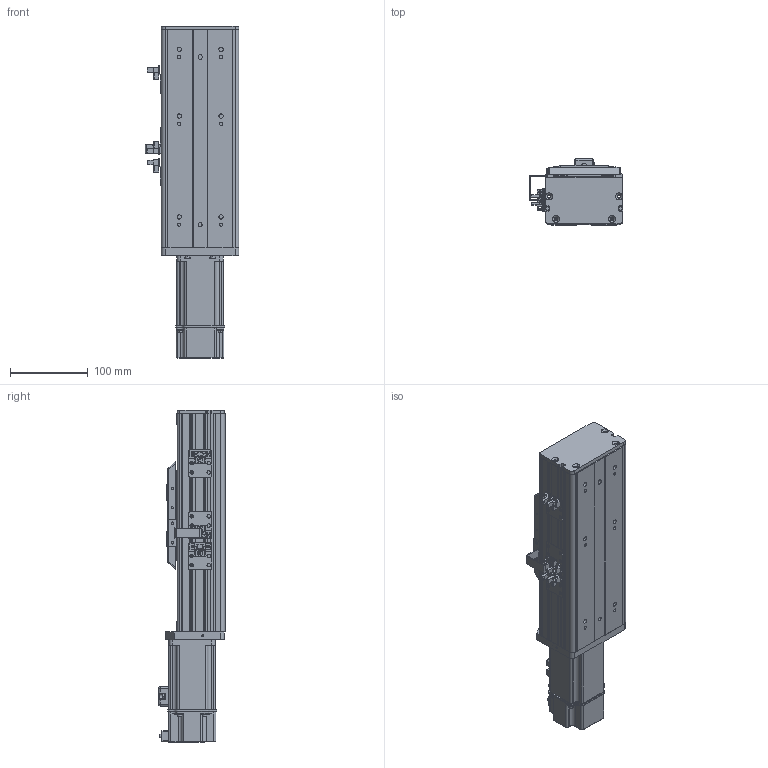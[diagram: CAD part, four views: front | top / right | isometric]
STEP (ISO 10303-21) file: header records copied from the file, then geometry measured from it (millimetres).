
FILE_DESCRIPTION (( 'STEP AP203' ), '1' );
FILE_NAME ('BOSW100-50-1610-1P-CM-M400W-O-S3（方程式2016）.step', '2020-10-10T06:28:24', ( '' ), ( '' ), 'SwSTEP 2.0', 'SolidWorks 2016', '' );
FILE_SCHEMA (( 'CONFIG_CONTROL_DESIGN' ));
Length unit declared in the file: millimetre
Products named in the file (13): 新结构AIMSW-100-1P-宽&高轨共用-滑动座上组件; BOSW&TW-100-俋离覜茼え; 放大器内置U型微型光电传感器PM-L65; BOSW&TW-100-1P-賑雄釱欶; BOSW-100-綴裔啣; BOSW-100-CM-宽轨-三菱M200W&400W马达板(新结构); S400W(SMA-L040); BOSW-100-1P-CM-50諦誧芞; BOSW-100-1P-CM-宽轨-侧板-50客户图纸; BOSW100-50-1610-1P-CM-M400W-O-S3（方程式2016）; BOSW-100-1P-CM-宽轨-钢带-50客户图纸; BOSW&TW-100-詩湍揤沭(陔賦凳); 俋境嫖覜嘐隅啣
Assembly tree (18 placements, depth 2):
  BOSW100-50-1610-1P-CM-M400W-O-S3（方程式2016）
    BOSW-100-1P-CM-50諦誧芞
    BOSW-100-綴裔啣
    新结构AIMSW-100-1P-宽&高轨共用-滑动座上组件
    S400W(SMA-L040)
    BOSW&TW-100-詩湍揤沭(陔賦凳)  x2
    BOSW&TW-100-1P-賑雄釱欶
    BOSW&TW-100-俋离覜茼え
    俋境嫖覜嘐隅啣  x3
    放大器内置U型微型光电传感器PM-L65  x3
    BOSW-100-CM-宽轨-三菱M200W&400W马达板(新结构)
    BOSW-100-1P-CM-宽轨-侧板-50客户图纸  x2
    BOSW-100-1P-CM-宽轨-钢带-50客户图纸
Bounding box: 120.9 x 85.5 x 427.8 mm (x, y, z)
Volume: 894045.5 mm3; surface area: 420725 mm2
Topology: 18 solids, 18 shells, 2453 faces, 6450 edges, 4109 vertices
Faces by surface type: plane 1216, cylinder 753, bspline 271, cone 165, torus 36, sphere 12
Entity records: 66536 total; most frequent: CARTESIAN_POINT 20192, ORIENTED_EDGE 9440, DIRECTION 9134, EDGE_CURVE 4720, AXIS2_PLACEMENT_3D 3232, VERTEX_POINT 3011, LINE 2670, VECTOR 2670
